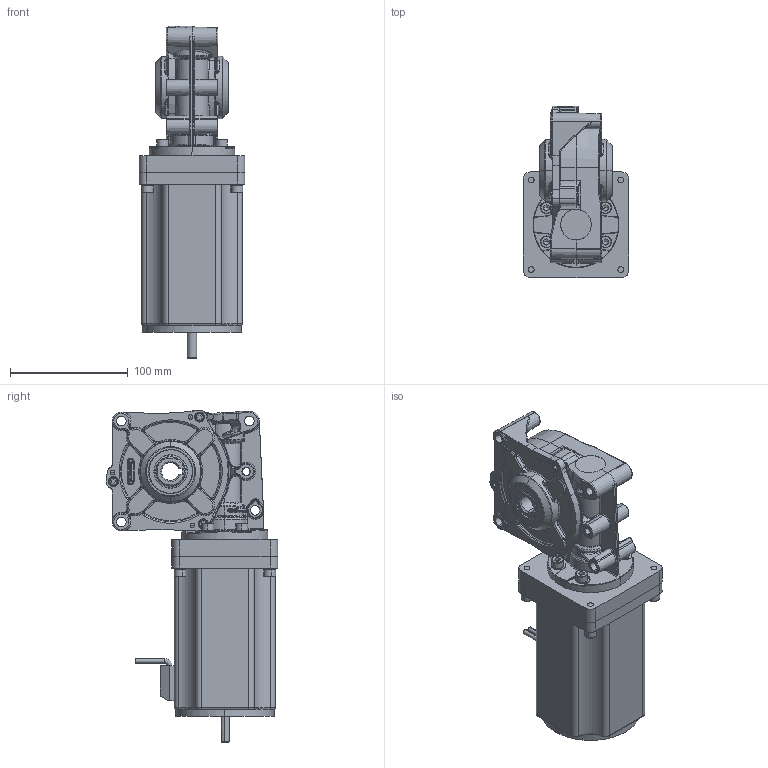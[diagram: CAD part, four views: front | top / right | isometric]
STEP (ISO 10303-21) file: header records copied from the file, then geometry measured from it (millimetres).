
FILE_DESCRIPTION (( 'STEP AP214' ), '1' );
FILE_NAME ('PBL86-80-GB12.STEP', '2024-01-03T13:50:12', ( '' ), ( '' ), 'SwSTEP 2.0', 'SolidWorks 2023', '' );
FILE_SCHEMA (( 'AUTOMOTIVE_DESIGN' ));
Length unit declared in the file: millimetre
Products named in the file (1): PBL86-80-GB12
Bounding box: 90 x 145.85 x 282.55 mm (x, y, z)
Volume: 1240642.2 mm3; surface area: 236347.7 mm2
Topology: 46 solids, 46 shells, 3092 faces, 7300 edges, 4271 vertices
Faces by surface type: cylinder 810, bspline 775, plane 759, torus 398, cone 296, sphere 54
Entity records: 146908 total; most frequent: CARTESIAN_POINT 47421, ORIENTED_EDGE 14346, DIRECTION 12751, EDGE_CURVE 7173, AXIS2_PLACEMENT_3D 5191, VERTEX_POINT 4271, EDGE_LOOP 3284, UNCERTAINTY_MEASURE_WITH_UNIT 3139
